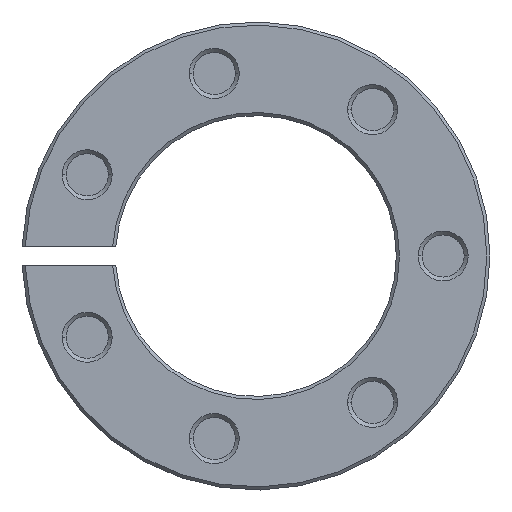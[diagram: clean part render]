
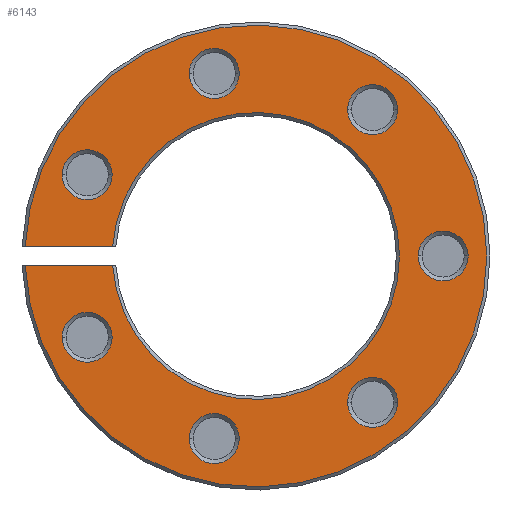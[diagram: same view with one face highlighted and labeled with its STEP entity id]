
A CAD part, left-side view. The second image highlights one B-rep face of the part: STEP entity #6143.
In plain terms, the highlighted planar face has unit normal (-1, 0, 0).
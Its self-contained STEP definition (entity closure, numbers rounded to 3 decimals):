
#2396=CARTESIAN_POINT('',(-33.,0.,0.));
#2397=DIRECTION('',(-1.,0.,0.));
#2398=DIRECTION('',(0.,0.999,-0.041));
#2399=AXIS2_PLACEMENT_3D('',#2396,#2397,#2398);
#2432=CARTESIAN_POINT('',(-33.,27.029,
-13.017));
#2433=DIRECTION('',(1.,0.,0.));
#2434=DIRECTION('',(0.,-1.,0.));
#2435=AXIS2_PLACEMENT_3D('',#2432,#2433,#2434);
#2440=CARTESIAN_POINT('',(-33.,27.029,
-13.017));
#2441=DIRECTION('',(1.,0.,0.));
#2442=DIRECTION('',(0.,1.,0.));
#2443=AXIS2_PLACEMENT_3D('',#2440,#2441,#2442);
#2448=CARTESIAN_POINT('',(-33.,6.676,
-29.248));
#2449=DIRECTION('',(1.,0.,0.));
#2450=DIRECTION('',(0.,-1.,0.));
#2451=AXIS2_PLACEMENT_3D('',#2448,#2449,#2450);
#2456=CARTESIAN_POINT('',(-33.,6.676,
-29.248));
#2457=DIRECTION('',(1.,0.,0.));
#2458=DIRECTION('',(0.,1.,0.));
#2459=AXIS2_PLACEMENT_3D('',#2456,#2457,#2458);
#2464=CARTESIAN_POINT('',(-33.,-18.705,
-23.455));
#2465=DIRECTION('',(1.,0.,0.));
#2466=DIRECTION('',(0.,-1.,0.));
#2467=AXIS2_PLACEMENT_3D('',#2464,#2465,#2466);
#2472=CARTESIAN_POINT('',(-33.,-18.705,
-23.455));
#2473=DIRECTION('',(1.,0.,0.));
#2474=DIRECTION('',(0.,1.,0.));
#2475=AXIS2_PLACEMENT_3D('',#2472,#2473,#2474);
#2480=CARTESIAN_POINT('',(-33.,-30.,0.));
#2481=DIRECTION('',(1.,0.,0.));
#2482=DIRECTION('',(0.,-1.,0.));
#2483=AXIS2_PLACEMENT_3D('',#2480,#2481,#2482);
#2488=CARTESIAN_POINT('',(-33.,-30.,0.));
#2489=DIRECTION('',(1.,0.,0.));
#2490=DIRECTION('',(0.,1.,0.));
#2491=AXIS2_PLACEMENT_3D('',#2488,#2489,#2490);
#2496=CARTESIAN_POINT('',(-33.,-18.705,
23.455));
#2497=DIRECTION('',(1.,0.,0.));
#2498=DIRECTION('',(0.,-1.,0.));
#2499=AXIS2_PLACEMENT_3D('',#2496,#2497,#2498);
#2504=CARTESIAN_POINT('',(-33.,-18.705,
23.455));
#2505=DIRECTION('',(1.,0.,0.));
#2506=DIRECTION('',(0.,1.,0.));
#2507=AXIS2_PLACEMENT_3D('',#2504,#2505,#2506);
#2512=CARTESIAN_POINT('',(-33.,6.676,29.248));
#2513=DIRECTION('',(1.,0.,0.));
#2514=DIRECTION('',(0.,-1.,0.));
#2515=AXIS2_PLACEMENT_3D('',#2512,#2513,#2514);
#2520=CARTESIAN_POINT('',(-33.,6.676,29.248));
#2521=DIRECTION('',(1.,0.,0.));
#2522=DIRECTION('',(0.,1.,0.));
#2523=AXIS2_PLACEMENT_3D('',#2520,#2521,#2522);
#2528=CARTESIAN_POINT('',(-33.,27.029,13.017));
#2529=DIRECTION('',(1.,0.,0.));
#2530=DIRECTION('',(0.,-1.,0.));
#2531=AXIS2_PLACEMENT_3D('',#2528,#2529,#2530);
#2536=CARTESIAN_POINT('',(-33.,27.029,13.017));
#2537=DIRECTION('',(1.,0.,0.));
#2538=DIRECTION('',(0.,1.,0.));
#2539=AXIS2_PLACEMENT_3D('',#2536,#2537,#2538);
#2544=DIRECTION('',(0.,-1.,0.));
#2545=VECTOR('',#2544,14.019);
#2546=CARTESIAN_POINT('',(-33.,36.97,-1.5));
#2547=LINE('',#2546,#2545);
#2551=DIRECTION('',(0.,-1.,0.));
#2552=VECTOR('',#2551,14.019);
#2553=CARTESIAN_POINT('',(-33.,36.97,1.5));
#2554=LINE('',#2553,#2552);
#2996=CARTESIAN_POINT('',(-33.,0.,0.));
#2997=DIRECTION('',(1.,0.,0.));
#2998=DIRECTION('',(0.,0.998,0.065));
#2999=AXIS2_PLACEMENT_3D('',#2996,#2997,#2998);
#3310=CARTESIAN_POINT('',(-33.,23.029,
-13.017));
#3311=CARTESIAN_POINT('',(-33.,31.029,
-13.017));
#3312=VERTEX_POINT('',#3310);
#3313=VERTEX_POINT('',#3311);
#3370=CARTESIAN_POINT('',(-33.,2.676,
-29.248));
#3371=CARTESIAN_POINT('',(-33.,10.676,
-29.248));
#3372=VERTEX_POINT('',#3370);
#3373=VERTEX_POINT('',#3371);
#3378=CARTESIAN_POINT('',(-33.,-22.705,
-23.455));
#3379=CARTESIAN_POINT('',(-33.,-14.705,
-23.455));
#3380=VERTEX_POINT('',#3378);
#3381=VERTEX_POINT('',#3379);
#3386=CARTESIAN_POINT('',(-33.,-34.,0.));
#3387=CARTESIAN_POINT('',(-33.,-26.,0.));
#3388=VERTEX_POINT('',#3386);
#3389=VERTEX_POINT('',#3387);
#3394=CARTESIAN_POINT('',(-33.,-22.705,
23.455));
#3395=CARTESIAN_POINT('',(-33.,-14.705,
23.455));
#3396=VERTEX_POINT('',#3394);
#3397=VERTEX_POINT('',#3395);
#3402=CARTESIAN_POINT('',(-33.,2.676,29.248));
#3403=CARTESIAN_POINT('',(-33.,10.676,29.248));
#3404=VERTEX_POINT('',#3402);
#3405=VERTEX_POINT('',#3403);
#3410=CARTESIAN_POINT('',(-33.,23.029,13.017));
#3411=CARTESIAN_POINT('',(-33.,31.029,13.017));
#3412=VERTEX_POINT('',#3410);
#3413=VERTEX_POINT('',#3411);
#3762=CARTESIAN_POINT('',(-33.,36.97,-1.5));
#3763=CARTESIAN_POINT('',(-33.,22.951,-1.5));
#3764=VERTEX_POINT('',#3762);
#3765=VERTEX_POINT('',#3763);
#3766=CARTESIAN_POINT('',(-33.,36.97,1.5));
#3767=CARTESIAN_POINT('',(-33.,22.951,1.5));
#3768=VERTEX_POINT('',#3766);
#3769=VERTEX_POINT('',#3767);
#6089=CARTESIAN_POINT('',(-33.,0.,0.));
#6090=DIRECTION('',(1.,0.,0.));
#6091=DIRECTION('',(0.,0.,-1.));
#6092=AXIS2_PLACEMENT_3D('',#6089,#6090,#6091);
#6093=PLANE('',#6092);
#6094=ORIENTED_EDGE('',*,*,#5908,.T.);
#6096=ORIENTED_EDGE('',*,*,#6095,.F.);
#6097=ORIENTED_EDGE('',*,*,#5977,.F.);
#6098=ORIENTED_EDGE('',*,*,#6069,.F.);
#6099=EDGE_LOOP('',(#6094,#6096,#6097,#6098));
#6100=FACE_OUTER_BOUND('',#6099,.F.);
#6102=ORIENTED_EDGE('',*,*,#6101,.F.);
#6104=ORIENTED_EDGE('',*,*,#6103,.F.);
#6105=EDGE_LOOP('',(#6102,#6104));
#6106=FACE_BOUND('',#6105,.F.);
#6108=ORIENTED_EDGE('',*,*,#6107,.F.);
#6110=ORIENTED_EDGE('',*,*,#6109,.F.);
#6111=EDGE_LOOP('',(#6108,#6110));
#6112=FACE_BOUND('',#6111,.F.);
#6114=ORIENTED_EDGE('',*,*,#6113,.F.);
#6116=ORIENTED_EDGE('',*,*,#6115,.F.);
#6117=EDGE_LOOP('',(#6114,#6116));
#6118=FACE_BOUND('',#6117,.F.);
#6120=ORIENTED_EDGE('',*,*,#6119,.F.);
#6122=ORIENTED_EDGE('',*,*,#6121,.F.);
#6123=EDGE_LOOP('',(#6120,#6122));
#6124=FACE_BOUND('',#6123,.F.);
#6126=ORIENTED_EDGE('',*,*,#6125,.F.);
#6128=ORIENTED_EDGE('',*,*,#6127,.F.);
#6129=EDGE_LOOP('',(#6126,#6128));
#6130=FACE_BOUND('',#6129,.F.);
#6132=ORIENTED_EDGE('',*,*,#6131,.F.);
#6134=ORIENTED_EDGE('',*,*,#6133,.F.);
#6135=EDGE_LOOP('',(#6132,#6134));
#6136=FACE_BOUND('',#6135,.F.);
#6138=ORIENTED_EDGE('',*,*,#6137,.F.);
#6140=ORIENTED_EDGE('',*,*,#6139,.F.);
#6141=EDGE_LOOP('',(#6138,#6140));
#6142=FACE_BOUND('',#6141,.F.);
#6143=ADVANCED_FACE('',(#6100,#6106,#6112,#6118,#6124,#6130,#6136,#6142),#6093,
.F.);
#2400=CIRCLE('',#2399,37.);
#2436=CIRCLE('',#2435,4.);
#2444=CIRCLE('',#2443,4.);
#2452=CIRCLE('',#2451,4.);
#2460=CIRCLE('',#2459,4.);
#2468=CIRCLE('',#2467,4.);
#2476=CIRCLE('',#2475,4.);
#2484=CIRCLE('',#2483,4.);
#2492=CIRCLE('',#2491,4.);
#2500=CIRCLE('',#2499,4.);
#2508=CIRCLE('',#2507,4.);
#2516=CIRCLE('',#2515,4.);
#2524=CIRCLE('',#2523,4.);
#2532=CIRCLE('',#2531,4.);
#2540=CIRCLE('',#2539,4.);
#3000=CIRCLE('',#2999,23.);
#5908=EDGE_CURVE('',#3764,#3765,#2547,.T.);
#5977=EDGE_CURVE('',#3768,#3769,#2554,.T.);
#6069=EDGE_CURVE('',#3764,#3768,#2400,.T.);
#6095=EDGE_CURVE('',#3769,#3765,#3000,.T.);
#6101=EDGE_CURVE('',#3312,#3313,#2436,.T.);
#6103=EDGE_CURVE('',#3313,#3312,#2444,.T.);
#6107=EDGE_CURVE('',#3372,#3373,#2452,.T.);
#6109=EDGE_CURVE('',#3373,#3372,#2460,.T.);
#6113=EDGE_CURVE('',#3380,#3381,#2468,.T.);
#6115=EDGE_CURVE('',#3381,#3380,#2476,.T.);
#6119=EDGE_CURVE('',#3388,#3389,#2484,.T.);
#6121=EDGE_CURVE('',#3389,#3388,#2492,.T.);
#6125=EDGE_CURVE('',#3396,#3397,#2500,.T.);
#6127=EDGE_CURVE('',#3397,#3396,#2508,.T.);
#6131=EDGE_CURVE('',#3404,#3405,#2516,.T.);
#6133=EDGE_CURVE('',#3405,#3404,#2524,.T.);
#6137=EDGE_CURVE('',#3412,#3413,#2532,.T.);
#6139=EDGE_CURVE('',#3413,#3412,#2540,.T.);
